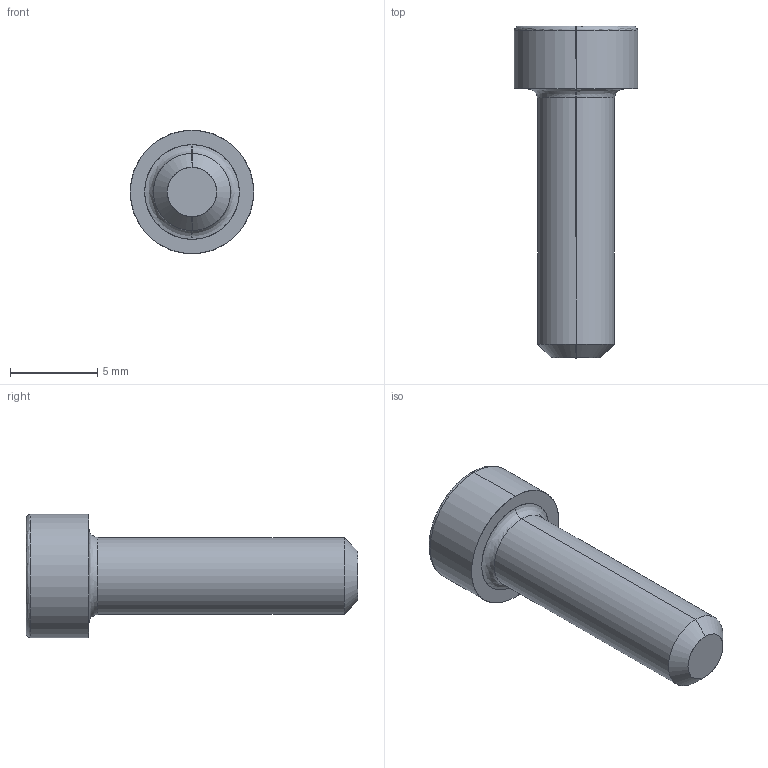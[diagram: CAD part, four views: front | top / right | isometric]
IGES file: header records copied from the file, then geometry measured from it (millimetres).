
Start section: SolidWorks IGES file using analytic representation for surfaces
Global section: file name: \\PSSILO\catalogs\CONTENTCENTRAL\Mainspring Cap\Cache\7E9FCB78-9D4B-4F91-9DFE-B9D55443E9B3.IGS; native system: SolidWorks 2009; preprocessor: SolidWorks 2009; author: partstream; date: 090716.112337; units: inch
Bounding box: 7.09 x 19.05 x 7.09 mm (x, y, z)
Surface area: 364.3 mm2 (no closed solid volume)
Topology: 0 solids, 0 shells, 15 faces, 208 edges, 206 vertices
Faces by surface type: revolution 8, bspline 7
